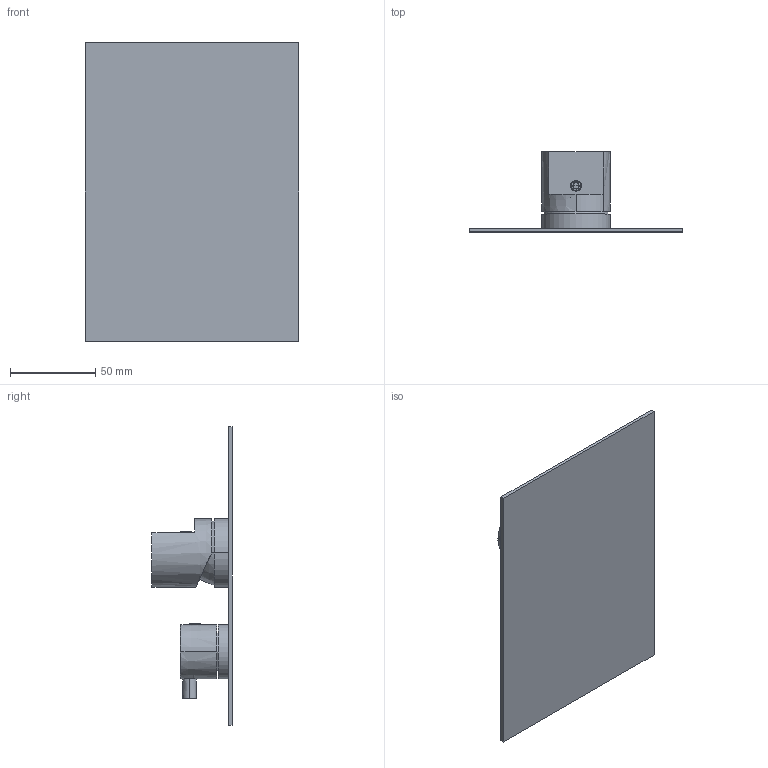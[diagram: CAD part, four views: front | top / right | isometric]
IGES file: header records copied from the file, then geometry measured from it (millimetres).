
Start section:  PTC IGES file: 8954121_sw0001.igs
Global section: file name: 8954121_sw0001.igs; native system: Creo Parametric by PTC Inc.; preprocessor: 2018100; author: carloff; organization: Unknown; date: 20200618.143044; units: millimetre
Bounding box: 125 x 47 x 175 mm (x, y, z)
Surface area: 64916.4 mm2 (no closed solid volume)
Topology: 0 solids, 0 shells, 217 faces, 1162 edges, 1154 vertices
Faces by surface type: revolution 116, bspline 101
